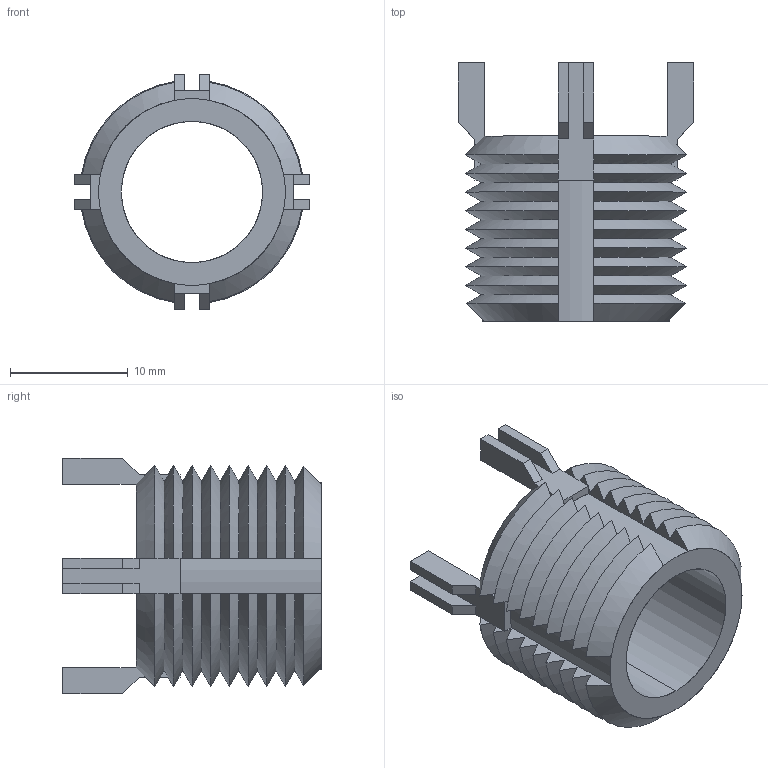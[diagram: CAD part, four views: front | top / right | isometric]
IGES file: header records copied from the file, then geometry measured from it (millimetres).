
Start section: SolidWorks IGES file using analytic representation for surfaces
Global section: file name: C:\Users\IanO\Desktop\TR1530_v2\TR1530_v2_20230501_IGES\TR1530.66647.igs; native system: SolidWorks 2019; preprocessor: SolidWorks 2019; author: IanO; date: 230502.140408; units: millimetre
Bounding box: 19.99 x 21.99 x 19.99 mm (x, y, z)
Surface area: 2686.6 mm2 (no closed solid volume)
Topology: 0 solids, 0 shells, 168 faces, 1008 edges, 1008 vertices
Faces by surface type: bspline 90, revolution 78
